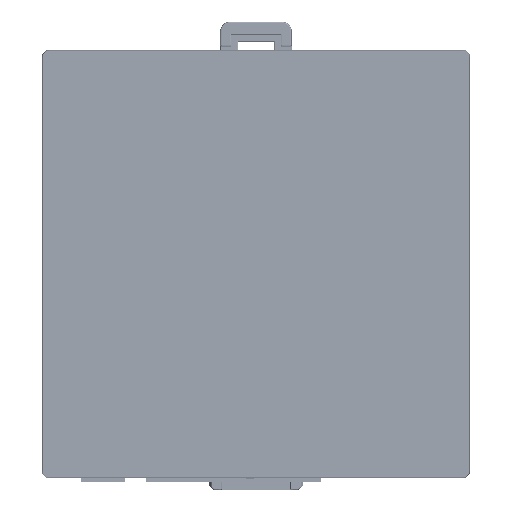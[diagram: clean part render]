
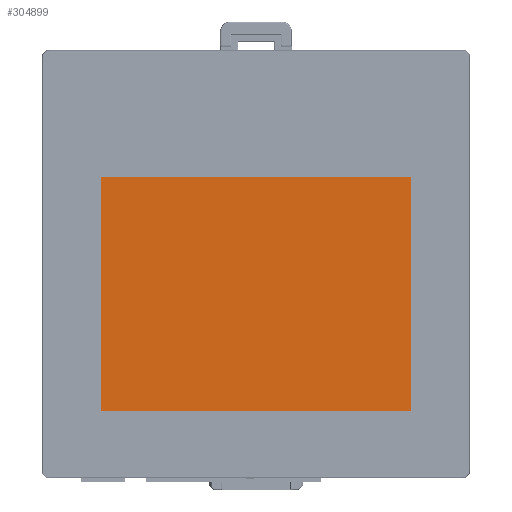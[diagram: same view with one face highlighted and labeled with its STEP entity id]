
A CAD part, top view. The second image highlights one B-rep face of the part: STEP entity #304899.
In plain terms, the highlighted planar face has unit normal (0, 0, 1).
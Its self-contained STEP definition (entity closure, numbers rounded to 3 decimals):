
#23887 = LINE ( 'NONE', #413479, #336924 ) ;
#35012 = VECTOR ( 'NONE', #341220, 1000. ) ;
#55972 = ORIENTED_EDGE ( 'NONE', *, *, #162520, .T. ) ;
#61627 = VERTEX_POINT ( 'NONE', #329207 ) ;
#64483 = CARTESIAN_POINT ( 'NONE',  ( -51.516, -29.901, 108.946 ) ) ;
#64755 = EDGE_LOOP ( 'NONE', ( #306620, #255166, #376772, #55972 ) ) ;
#82383 = DIRECTION ( 'NONE',  ( 0., 0., 1. ) ) ;
#82448 = AXIS2_PLACEMENT_3D ( 'NONE', #84552, #82383, #214278 ) ;
#84552 = CARTESIAN_POINT ( 'NONE',  ( -16.747, 2.983, 108.946 ) ) ;
#103680 = LINE ( 'NONE', #270346, #193544 ) ;
#105818 = DIRECTION ( 'NONE',  ( 0., 1., 0. ) ) ;
#115778 = DIRECTION ( 'NONE',  ( -1., 0., 0. ) ) ;
#123318 = DIRECTION ( 'NONE',  ( 1., 0., 0. ) ) ;
#127472 = CARTESIAN_POINT ( 'NONE',  ( -51.516, 22.406, 108.946 ) ) ;
#129433 = LINE ( 'NONE', #64483, #35012 ) ;
#155052 = EDGE_CURVE ( 'NONE', #61627, #340653, #103680, .T. ) ;
#155777 = PLANE ( 'NONE',  #82448 ) ;
#162520 = EDGE_CURVE ( 'NONE', #423327, #61627, #23887, .T. ) ;
#185378 = CARTESIAN_POINT ( 'NONE',  ( 18.022, 22.406, 108.946 ) ) ;
#193544 = VECTOR ( 'NONE', #105818, 1000. ) ;
#214278 = DIRECTION ( 'NONE',  ( -1., 0., 0. ) ) ;
#214598 = VERTEX_POINT ( 'NONE', #127472 ) ;
#255166 = ORIENTED_EDGE ( 'NONE', *, *, #412606, .T. ) ;
#270346 = CARTESIAN_POINT ( 'NONE',  ( 18.022, -29.901, 108.946 ) ) ;
#275975 = LINE ( 'NONE', #412375, #303858 ) ;
#303858 = VECTOR ( 'NONE', #115778, 1000. ) ;
#304899 = ADVANCED_FACE ( 'NONE', ( #405030 ), #155777, .T. ) ;
#305934 = EDGE_CURVE ( 'NONE', #214598, #423327, #129433, .T. ) ;
#306620 = ORIENTED_EDGE ( 'NONE', *, *, #155052, .T. ) ;
#329207 = CARTESIAN_POINT ( 'NONE',  ( 18.022, -29.901, 108.946 ) ) ;
#336924 = VECTOR ( 'NONE', #123318, 1000. ) ;
#340653 = VERTEX_POINT ( 'NONE', #185378 ) ;
#341220 = DIRECTION ( 'NONE',  ( 0., -1., 0. ) ) ;
#367014 = CARTESIAN_POINT ( 'NONE',  ( -51.516, -29.901, 108.946 ) ) ;
#376772 = ORIENTED_EDGE ( 'NONE', *, *, #305934, .T. ) ;
#405030 = FACE_OUTER_BOUND ( 'NONE', #64755, .T. ) ;
#412375 = CARTESIAN_POINT ( 'NONE',  ( 18.022, 22.406, 108.946 ) ) ;
#412606 = EDGE_CURVE ( 'NONE', #340653, #214598, #275975, .T. ) ;
#413479 = CARTESIAN_POINT ( 'NONE',  ( 18.022, -29.901, 108.946 ) ) ;
#423327 = VERTEX_POINT ( 'NONE', #367014 ) ;
